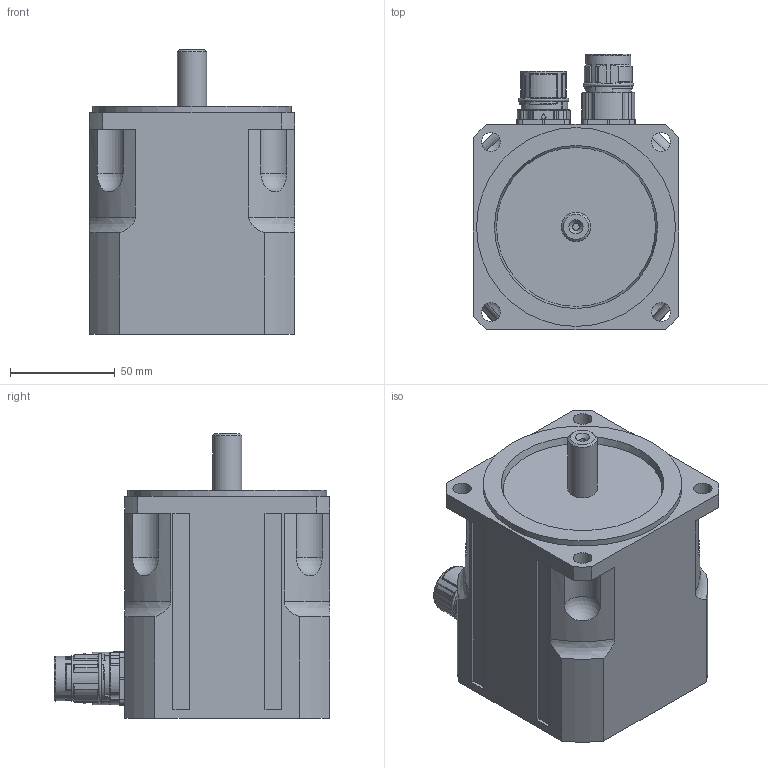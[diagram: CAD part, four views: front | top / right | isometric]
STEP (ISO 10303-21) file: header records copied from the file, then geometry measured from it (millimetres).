
FILE_DESCRIPTION(/* description */ (''),/* implementation_level */ '2;1');
FILE_NAME(/* name */ 'C:\PDF_output\T4023 00 Z_0160.stp',/* time_stamp */ '2015-07-20T12:05:22+02:00',/* author */ ('oslejsek'),/* organization */ (''),/* preprocessor_version */ 'ST-DEVELOPER v16.1',/* originating_system */ 'Autodesk Inventor 2016',/* authorisation */ '');
FILE_SCHEMA (('AUTOMOTIVE_DESIGN { 1 0 10303 214 3 1 1 }'));
Length unit declared in the file: millimetre
Products named in the file (4): T4023 00_0160; BEG_0200-8-polig; AEG_0201 12-pol; T4023 00 Z_0160
Assembly tree (3 placements, depth 2):
  T4023 00 Z_0160
    T4023 00_0160
    BEG_0200-8-polig
    AEG_0201 12-pol
Bounding box: 98 x 131.75 x 136 mm (x, y, z)
Volume: 972915.7 mm3; surface area: 73724.1 mm2
Topology: 3 solids, 3 shells, 1005 faces, 2604 edges, 1656 vertices
Faces by surface type: cylinder 338, plane 296, bspline 164, torus 113, cone 63, sphere 31
Full cylindrical faces by diameter (mm): 1 x16, 1.18 x12, 1.3 x4, 2 x4, 2.15 x4, 2.7 x8, 3 x4, 3.242 x1, 5.8 x1, 6.8 x1, 9 x4, 14 x1, 17.1 x1, 17.4 x1, 17.7 x1, 19.8 x1, 20 x2, 21.15 x2, 21.5 x1, 21.6 x1, 95 x1
Entity records: 37321 total; most frequent: CARTESIAN_POINT 12938, DIRECTION 4902, ORIENTED_EDGE 4784, EDGE_CURVE 2392, AXIS2_PLACEMENT_3D 2039, VERTEX_POINT 1575, EDGE_LOOP 1203, CIRCLE 1105
